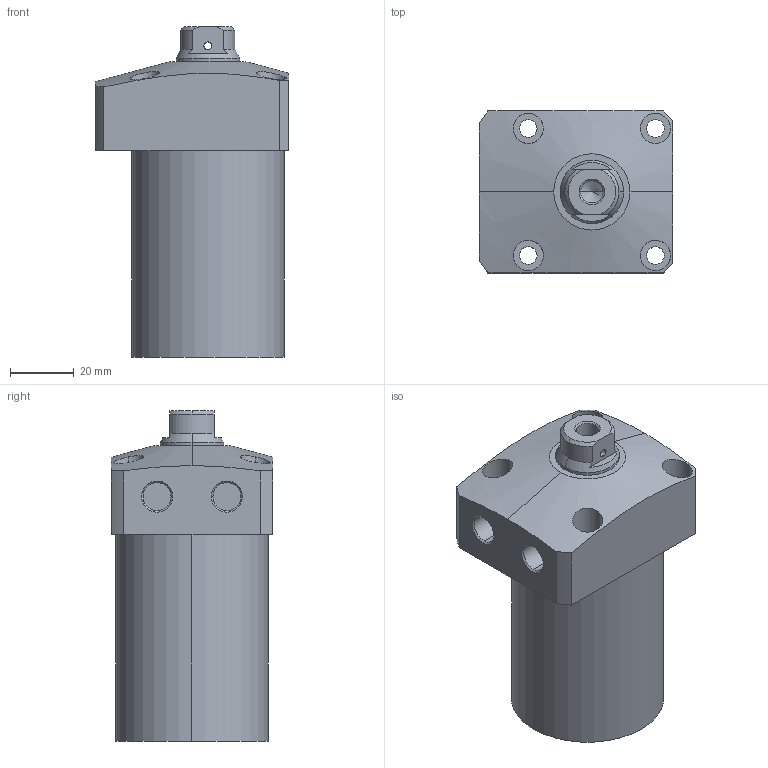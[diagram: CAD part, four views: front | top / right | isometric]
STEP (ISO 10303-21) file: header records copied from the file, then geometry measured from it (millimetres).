
FILE_DESCRIPTION (( 'STEP AP203' ), '1' );
FILE_NAME ('CLL-0480-CB-55.STEP', '2017-05-09T03:12:46', ( '' ), ( '' ), 'SwSTEP 2.0', 'SolidWorks 2015', '' );
FILE_SCHEMA (( 'CONFIG_CONTROL_DESIGN' ));
Length unit declared in the file: millimetre
Products named in the file (1): CLL-0480-CB-55
Bounding box: 61 x 51 x 104 mm (x, y, z)
Volume: 192191.1 mm3; surface area: 24403.6 mm2
Topology: 1 solids, 1 shells, 76 faces, 181 edges, 116 vertices
Faces by surface type: cylinder 39, plane 22, cone 15
Entity records: 2695 total; most frequent: CARTESIAN_POINT 818, DIRECTION 386, ORIENTED_EDGE 358, EDGE_CURVE 179, AXIS2_PLACEMENT_3D 158, VERTEX_POINT 116, EDGE_LOOP 99, CIRCLE 81
